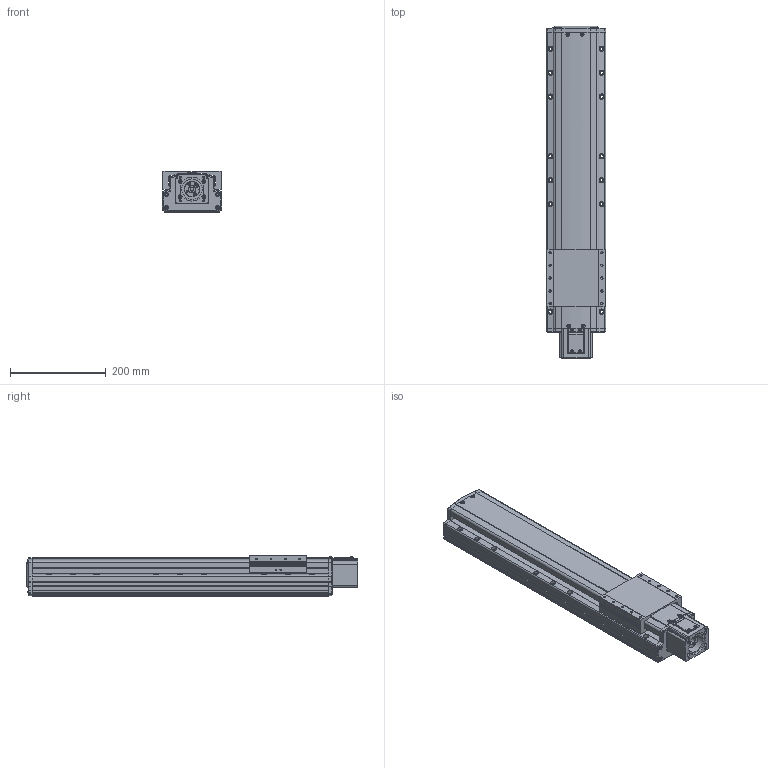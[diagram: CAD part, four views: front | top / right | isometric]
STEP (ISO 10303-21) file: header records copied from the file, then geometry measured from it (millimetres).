
FILE_DESCRIPTION(('STEP AP214'),'1');
FILE_NAME('Z:/Web/3D/PSA125/STP/PSA125-400 (3D)/PSA125ㅁㅁ-400S.stp','2014-06-22T23:53:31',(' '),(' '),'Spatial InterOp 3D',' ',' ');
FILE_SCHEMA(('automotive_design'));
Length unit declared in the file: millimetre
Products named in the file (35): 스크루 : Round - M4.0 x 10.0; RRCV-PA120; SLIDE; BASE; FRCV-PA120-1(기준 뿔 제거); RR1500; 스크루 : Round - M4.0 x 6.0; 너트 : Square - M10.0 x 220.7419; SSFX-SAN65; CPLCV-SAN65; 스크루 : Round - M3.0 x 6.0; MTHZ-PA120-S60A-3; 스크루 : Socket - M4.0 x 20.0; FRCV; NONE
Bounding box: 125 x 694.6 x 86 mm (x, y, z)
Volume: 5585335.6 mm3; surface area: 533506.5 mm2
Topology: 35 solids, 69 shells, 3154 faces, 8078 edges, 5076 vertices
Faces by surface type: plane 1465, cylinder 999, cone 425, torus 174, sphere 50, bspline 41
Entity records: 124360 total; most frequent: CARTESIAN_POINT 20682, DIRECTION 16944, ORIENTED_EDGE 15844, EDGE_CURVE 7922, AXIS2_PLACEMENT_3D 6118, VERTEX_POINT 5076, LINE 4708, VECTOR 4708
